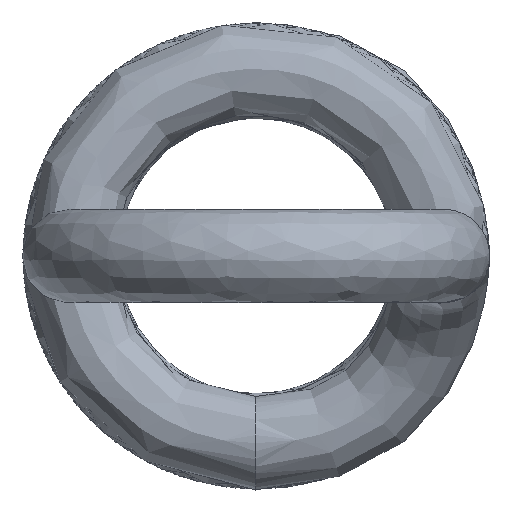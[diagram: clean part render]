
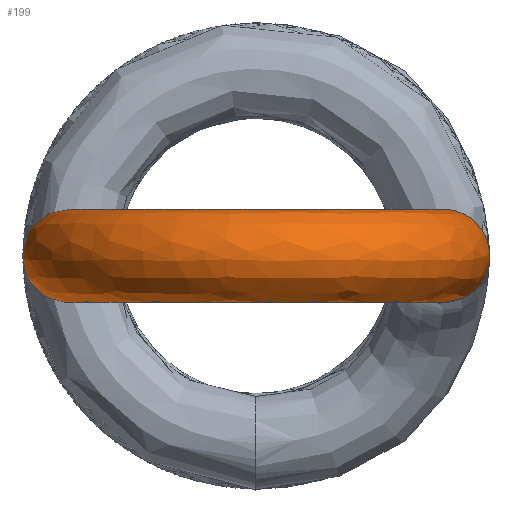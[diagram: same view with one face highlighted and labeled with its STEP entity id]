
A CAD part, front view. The second image highlights one B-rep face of the part: STEP entity #199.
In plain terms, the highlighted free-form (B-spline) face has degree [2, 2] with [9, 7] control points.
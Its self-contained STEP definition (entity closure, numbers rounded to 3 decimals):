
#15=(
BOUNDED_SURFACE()
B_SPLINE_SURFACE(2,2,((#769,#770,#771,#772,#773,#774,#775),(#776,#777,#778,
#779,#780,#781,#782),(#783,#784,#785,#786,#787,#788,#789),(#790,#791,#792,
#793,#794,#795,#796),(#797,#798,#799,#800,#801,#802,#803),(#804,#805,#806,
#807,#808,#809,#810),(#811,#812,#813,#814,#815,#816,#817),(#818,#819,#820,
#821,#822,#823,#824),(#825,#826,#827,#828,#829,#830,#831)),
 .UNSPECIFIED.,.T.,.F.,.F.)
B_SPLINE_SURFACE_WITH_KNOTS((3,2,2,2,3),(3,2,2,3),(0.,1.571,3.142,
4.712,6.283),(0.,1.131,2.261,
3.392),.UNSPECIFIED.)
GEOMETRIC_REPRESENTATION_ITEM()
RATIONAL_B_SPLINE_SURFACE(((1.,0.844,1.,0.844,1.,
0.844,1.),(0.707,0.597,0.707,
0.597,0.707,0.597,0.707),
(1.,0.844,1.,0.844,1.,0.844,1.),(0.707,
0.597,0.707,0.597,0.707,0.597,
0.707),(1.,0.844,1.,0.844,1.,0.844,
1.),(0.707,0.597,0.707,0.597,
0.707,0.597,0.707),(1.,0.844,
1.,0.844,1.,0.844,1.),(0.707,0.597,
0.707,0.597,0.707,0.597,
0.707),(1.,0.844,1.,0.844,1.,0.844,
1.)))
REPRESENTATION_ITEM('')
SURFACE()
);
#22=CIRCLE('',#234,0.55);
#23=CIRCLE('',#235,1.963);
#24=CIRCLE('',#236,0.55);
#37=FACE_OUTER_BOUND('',#48,.T.);
#48=EDGE_LOOP('',(#142,#143,#144,#145));
#85=VERTEX_POINT('',#700);
#88=VERTEX_POINT('',#832);
#106=EDGE_CURVE('',#85,#85,#22,.T.);
#109=EDGE_CURVE('',#85,#88,#23,.T.);
#110=EDGE_CURVE('',#88,#88,#24,.T.);
#142=ORIENTED_EDGE('',*,*,#106,.T.);
#143=ORIENTED_EDGE('',*,*,#109,.T.);
#144=ORIENTED_EDGE('',*,*,#110,.F.);
#145=ORIENTED_EDGE('',*,*,#109,.F.);
#199=ADVANCED_FACE('',(#37),#15,.T.);
#234=AXIS2_PLACEMENT_3D('',#711,#256,#257);
#235=AXIS2_PLACEMENT_3D('',#833,#258,#259);
#236=AXIS2_PLACEMENT_3D('',#834,#260,#261);
#256=DIRECTION('center_axis',(0.,-1.,0.));
#257=DIRECTION('ref_axis',(-0.431,0.,-0.902));
#258=DIRECTION('center_axis',(0.,0.,
-1.));
#259=DIRECTION('ref_axis',(1.,0.,0.));
#260=DIRECTION('center_axis',(0.248,0.969,0.));
#261=DIRECTION('ref_axis',(0.418,-0.107,-0.902));
#700=CARTESIAN_POINT('',(1.963,-28.4,-0.496));
#711=CARTESIAN_POINT('Origin',(2.2,-28.4,0.));
#769=CARTESIAN_POINT('Ctrl Pts',(1.963,-28.4,-0.496));
#770=CARTESIAN_POINT('Ctrl Pts',(1.963,-29.645,-0.496));
#771=CARTESIAN_POINT('Ctrl Pts',(0.836,-30.176,-0.496));
#772=CARTESIAN_POINT('Ctrl Pts',(-0.291,-30.706,-0.496));
#773=CARTESIAN_POINT('Ctrl Pts',(-1.251,-29.913,-0.496));
#774=CARTESIAN_POINT('Ctrl Pts',(-2.211,-29.12,-0.496));
#775=CARTESIAN_POINT('Ctrl Pts',(-1.902,-27.913,-0.496));
#776=CARTESIAN_POINT('Ctrl Pts',(2.459,-28.4,-0.733));
#777=CARTESIAN_POINT('Ctrl Pts',(2.459,-29.96,-0.733));
#778=CARTESIAN_POINT('Ctrl Pts',(1.048,-30.625,-0.733));
#779=CARTESIAN_POINT('Ctrl Pts',(-0.364,-31.29,-0.733));
#780=CARTESIAN_POINT('Ctrl Pts',(-1.567,-30.296,-0.733));
#781=CARTESIAN_POINT('Ctrl Pts',(-2.769,-29.302,-0.733));
#782=CARTESIAN_POINT('Ctrl Pts',(-2.382,-27.79,-0.733));
#783=CARTESIAN_POINT('Ctrl Pts',(2.696,-28.4,-0.237));
#784=CARTESIAN_POINT('Ctrl Pts',(2.696,-30.111,-0.237));
#785=CARTESIAN_POINT('Ctrl Pts',(1.149,-30.839,-0.237));
#786=CARTESIAN_POINT('Ctrl Pts',(-0.399,-31.568,-0.237));
#787=CARTESIAN_POINT('Ctrl Pts',(-1.718,-30.478,-0.237));
#788=CARTESIAN_POINT('Ctrl Pts',(-3.036,-29.388,-0.237));
#789=CARTESIAN_POINT('Ctrl Pts',(-2.612,-27.731,-0.237));
#790=CARTESIAN_POINT('Ctrl Pts',(2.933,-28.4,0.259));
#791=CARTESIAN_POINT('Ctrl Pts',(2.933,-30.261,0.259));
#792=CARTESIAN_POINT('Ctrl Pts',(1.25,-31.054,0.259));
#793=CARTESIAN_POINT('Ctrl Pts',(-0.434,-31.847,0.259));
#794=CARTESIAN_POINT('Ctrl Pts',(-1.869,-30.661,0.259));
#795=CARTESIAN_POINT('Ctrl Pts',(-3.303,-29.475,0.259));
#796=CARTESIAN_POINT('Ctrl Pts',(-2.842,-27.672,0.259));
#797=CARTESIAN_POINT('Ctrl Pts',(2.437,-28.4,0.496));
#798=CARTESIAN_POINT('Ctrl Pts',(2.437,-29.946,0.496));
#799=CARTESIAN_POINT('Ctrl Pts',(1.038,-30.605,0.496));
#800=CARTESIAN_POINT('Ctrl Pts',(-0.361,-31.264,0.496));
#801=CARTESIAN_POINT('Ctrl Pts',(-1.553,-30.278,0.496));
#802=CARTESIAN_POINT('Ctrl Pts',(-2.744,-29.293,0.496));
#803=CARTESIAN_POINT('Ctrl Pts',(-2.361,-27.796,0.496));
#804=CARTESIAN_POINT('Ctrl Pts',(1.941,-28.4,0.733));
#805=CARTESIAN_POINT('Ctrl Pts',(1.941,-29.631,0.733));
#806=CARTESIAN_POINT('Ctrl Pts',(0.827,-30.156,0.733));
#807=CARTESIAN_POINT('Ctrl Pts',(-0.287,-30.68,0.733));
#808=CARTESIAN_POINT('Ctrl Pts',(-1.236,-29.896,0.733));
#809=CARTESIAN_POINT('Ctrl Pts',(-2.186,-29.111,0.733));
#810=CARTESIAN_POINT('Ctrl Pts',(-1.88,-27.919,0.733));
#811=CARTESIAN_POINT('Ctrl Pts',(1.704,-28.4,0.237));
#812=CARTESIAN_POINT('Ctrl Pts',(1.704,-29.481,0.237));
#813=CARTESIAN_POINT('Ctrl Pts',(0.726,-29.941,0.237));
#814=CARTESIAN_POINT('Ctrl Pts',(-0.252,-30.402,0.237));
#815=CARTESIAN_POINT('Ctrl Pts',(-1.085,-29.713,0.237));
#816=CARTESIAN_POINT('Ctrl Pts',(-1.919,-29.025,0.237));
#817=CARTESIAN_POINT('Ctrl Pts',(-1.65,-27.977,0.237));
#818=CARTESIAN_POINT('Ctrl Pts',(1.467,-28.4,-0.259));
#819=CARTESIAN_POINT('Ctrl Pts',(1.467,-29.331,-0.259));
#820=CARTESIAN_POINT('Ctrl Pts',(0.625,-29.727,-0.259));
#821=CARTESIAN_POINT('Ctrl Pts',(-0.217,-30.123,-0.259));
#822=CARTESIAN_POINT('Ctrl Pts',(-0.934,-29.53,-0.259));
#823=CARTESIAN_POINT('Ctrl Pts',(-1.652,-28.938,-0.259));
#824=CARTESIAN_POINT('Ctrl Pts',(-1.421,-28.036,-0.259));
#825=CARTESIAN_POINT('Ctrl Pts',(1.963,-28.4,-0.496));
#826=CARTESIAN_POINT('Ctrl Pts',(1.963,-29.645,-0.496));
#827=CARTESIAN_POINT('Ctrl Pts',(0.836,-30.176,-0.496));
#828=CARTESIAN_POINT('Ctrl Pts',(-0.291,-30.706,-0.496));
#829=CARTESIAN_POINT('Ctrl Pts',(-1.251,-29.913,-0.496));
#830=CARTESIAN_POINT('Ctrl Pts',(-2.211,-29.12,-0.496));
#831=CARTESIAN_POINT('Ctrl Pts',(-1.902,-27.913,-0.496));
#832=CARTESIAN_POINT('',(-1.902,-27.913,-0.496));
#833=CARTESIAN_POINT('Origin',(0.,-28.4,-0.496));
#834=CARTESIAN_POINT('Origin',(-2.131,-27.854,0.));
